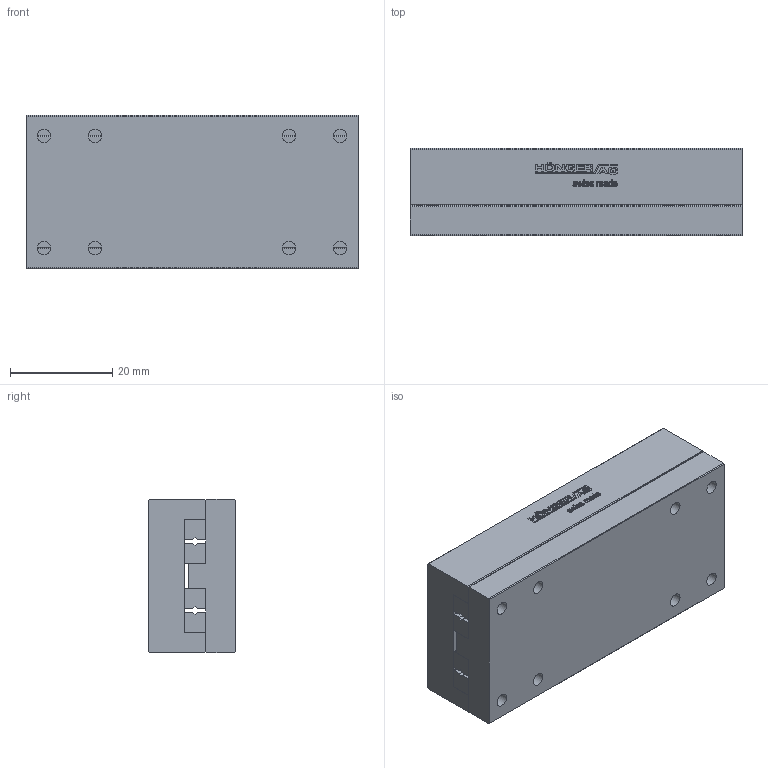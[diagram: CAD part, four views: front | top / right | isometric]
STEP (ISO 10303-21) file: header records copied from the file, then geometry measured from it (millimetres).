
FILE_DESCRIPTION(/* description */ ('STEP AP214'),/* implementation_level */ '2;1');
FILE_NAME(/* name */ 'NK 1-65-B(0)',/* time_stamp */ '2025-04-22T17:46:57+02:00',/* author */ ('License CC BY-ND 4.0'),/* organization */ ('CADENAS'),/* preprocessor_version */ 'ST-DEVELOPER v19.3',/* originating_system */ 'PARTsolutions',/* authorisation */ ' ');
FILE_SCHEMA (('AUTOMOTIVE_DESIGN {1 0 10303 214 3 1 1}'));
Length unit declared in the file: millimetre
Products named in the file (3): NK 1-65-B(0); NK 1-65-B_1; NK 1-65-B_2
Assembly tree (2 placements, depth 2):
  NK 1-65-B(0)
    NK 1-65-B_1
    NK 1-65-B_2
Bounding box: 65 x 17 x 30 mm (x, y, z)
Volume: 31661.1 mm3; surface area: 14919.7 mm2
Topology: 2 solids, 2 shells, 627 faces, 1716 edges, 1132 vertices
Faces by surface type: cylinder 318, plane 289, cone 20
Full cylindrical faces by diameter (mm): 1.567 x10, 2.6 x8, 4.1 x8
Entity records: 19955 total; most frequent: DIRECTION 3586, CARTESIAN_POINT 3432, ORIENTED_EDGE 3340, EDGE_CURVE 1670, AXIS2_PLACEMENT_3D 1286, VERTEX_POINT 1132, LINE 1014, VECTOR 1014
